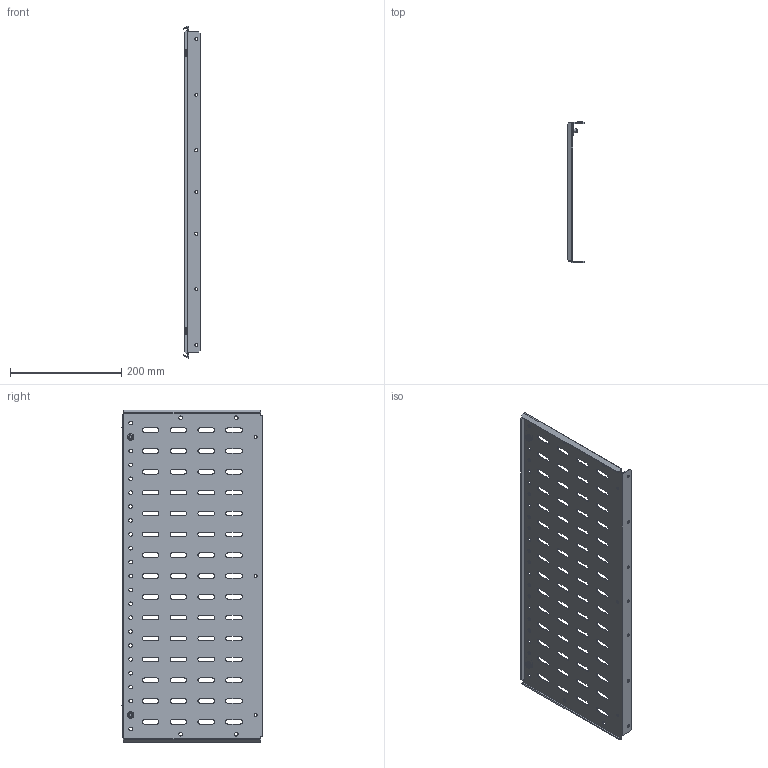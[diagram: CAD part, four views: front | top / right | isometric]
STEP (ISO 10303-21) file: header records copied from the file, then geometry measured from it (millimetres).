
FILE_DESCRIPTION (( 'STEP AP214' ), '1' );
FILE_NAME ('FO-00-SWFB-060 Ïåðåãîðîäêà ñåêöèîíèðîâàíèÿ çàäíÿÿ äëÿ âåðòèêàëüíîãî øèííîãî îòñåêà âûñîòà 500 ìì â øêàô øèðèíîé 600 ìì.STEP', '2025-08-08T12:03:39', ( '' ), ( '' ), 'SwSTEP 2.0', 'SolidWorks 2023', '' );
FILE_SCHEMA (( 'AUTOMOTIVE_DESIGN' ));
Length unit declared in the file: millimetre
Products named in the file (1): FO-00-SWFB-060 Перегородка секционирования задняя для вертикального шинного отсека высота 500 мм в шкаф шириной 600 мм
Bounding box: 30.53 x 253.25 x 597.3 mm (x, y, z)
Volume: 237664 mm3; surface area: 323390.8 mm2
Topology: 1 solids, 3 shells, 530 faces, 1538 edges, 1020 vertices
Faces by surface type: cylinder 300, plane 214, cone 8, torus 8
Entity records: 18113 total; most frequent: DIRECTION 3224, CARTESIAN_POINT 3089, ORIENTED_EDGE 3076, EDGE_CURVE 1538, AXIS2_PLACEMENT_3D 1155, VERTEX_POINT 1020, LINE 914, VECTOR 914
